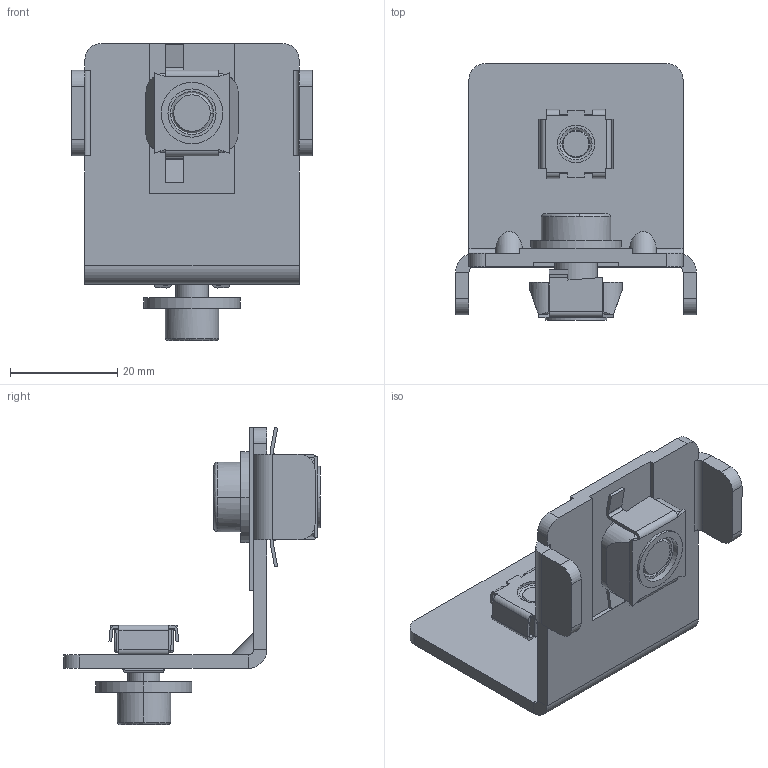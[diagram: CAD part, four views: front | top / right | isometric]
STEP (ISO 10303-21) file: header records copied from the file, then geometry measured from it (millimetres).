
FILE_DESCRIPTION (( 'STEP AP203' ), '1' );
FILE_NAME ('AEP0070.STEP', '2023-02-17T06:59:51', ( '' ), ( '' ), 'SwSTEP 2.0', 'SolidWorks 2022', '' );
FILE_SCHEMA (( 'CONFIG_CONTROL_DESIGN' ));
Length unit declared in the file: millimetre
Products named in the file (8): Vite_TCEI_M6x12; Piegatura_angolare_fiss_porta_interna_ARETA_2ATAF000001_nervata; dado_gab_M6_9.6; rosetta_M8; Rosetta_6.4x18x2; dado_spec_AT_M8; vite_TCEI_M8x14_rib; AEP0070
Assembly tree (7 placements, depth 2):
  AEP0070
    Piegatura_angolare_fiss_porta_interna_ARETA_2ATAF000001_nervata
    dado_gab_M6_9.6
    rosetta_M8
    Rosetta_6.4x18x2
    dado_spec_AT_M8
    vite_TCEI_M8x14_rib
    Vite_TCEI_M6x12
Bounding box: 45 x 48 x 55.51 mm (x, y, z)
Volume: 13273.9 mm3; surface area: 12411.8 mm2
Topology: 7 solids, 7 shells, 336 faces, 852 edges, 538 vertices
Faces by surface type: plane 176, cylinder 92, bspline 56, cone 12
Entity records: 12835 total; most frequent: CARTESIAN_POINT 4135, ORIENTED_EDGE 1704, DIRECTION 1542, EDGE_CURVE 852, VERTEX_POINT 538, LINE 518, VECTOR 518, AXIS2_PLACEMENT_3D 512
